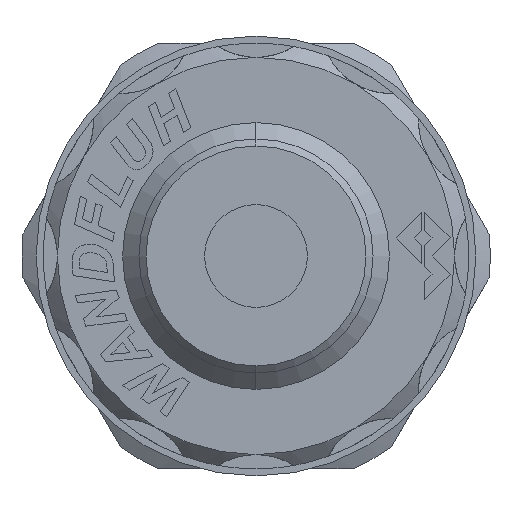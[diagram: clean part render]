
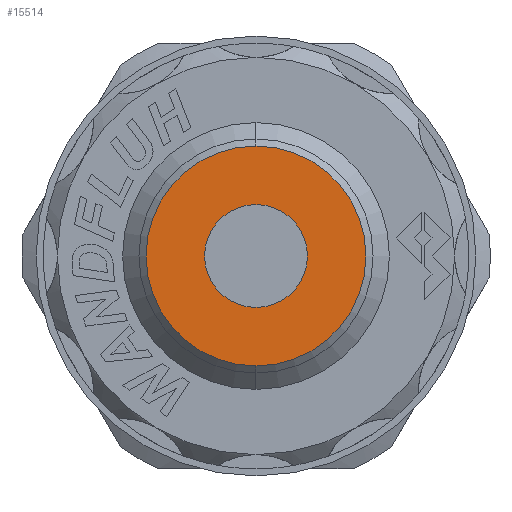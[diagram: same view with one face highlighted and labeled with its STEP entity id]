
A CAD part, left-side view. The second image highlights one B-rep face of the part: STEP entity #15514.
In plain terms, the highlighted planar face has unit normal (-1, 0, 0).
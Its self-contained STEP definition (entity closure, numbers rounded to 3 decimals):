
#1416 = AXIS2_PLACEMENT_3D ( 'NONE', #13700, #12616, #11990 ) ;
#1494 = CIRCLE ( 'NONE', #15503, 7.75 ) ;
#2851 = CIRCLE ( 'NONE', #19156, 3.625 ) ;
#3925 = CIRCLE ( 'NONE', #16902, 3.625 ) ;
#4174 = CARTESIAN_POINT ( 'NONE',  ( -70.9, 0., 7.75 ) ) ;
#5519 = EDGE_CURVE ( 'NONE', #9360, #19572, #3925, .T. ) ;
#6045 = EDGE_CURVE ( 'NONE', #21116, #14268, #1494, .T. ) ;
#6559 = FACE_OUTER_BOUND ( 'NONE', #12508, .T. ) ;
#7388 = AXIS2_PLACEMENT_3D ( 'NONE', #16304, #16222, #16258 ) ;
#9360 = VERTEX_POINT ( 'NONE', #17235 ) ;
#10915 = EDGE_CURVE ( 'NONE', #14268, #21116, #14246, .T. ) ;
#11024 = ORIENTED_EDGE ( 'NONE', *, *, #12440, .F. ) ;
#11706 = DIRECTION ( 'NONE',  ( -1., 0., 0. ) ) ;
#11990 = DIRECTION ( 'NONE',  ( 0., 0., 1. ) ) ;
#12440 = EDGE_CURVE ( 'NONE', #19572, #9360, #2851, .T. ) ;
#12508 = EDGE_LOOP ( 'NONE', ( #17384, #13382 ) ) ;
#12616 = DIRECTION ( 'NONE',  ( -1., 0., 0. ) ) ;
#13105 = DIRECTION ( 'NONE',  ( 0., 0., 1. ) ) ;
#13382 = ORIENTED_EDGE ( 'NONE', *, *, #6045, .T. ) ;
#13539 = DIRECTION ( 'NONE',  ( 0., 0., 1. ) ) ;
#13700 = CARTESIAN_POINT ( 'NONE',  ( -70.9, 0., 0. ) ) ;
#14246 = CIRCLE ( 'NONE', #1416, 7.75 ) ;
#14268 = VERTEX_POINT ( 'NONE', #16378 ) ;
#14711 = DIRECTION ( 'NONE',  ( -1., 0., 0. ) ) ;
#15274 = PLANE ( 'NONE',  #7388 ) ;
#15503 = AXIS2_PLACEMENT_3D ( 'NONE', #16619, #14711, #19932 ) ;
#15514 = ADVANCED_FACE ( 'NONE', ( #6559, #20796 ), #15274, .T. ) ;
#16222 = DIRECTION ( 'NONE',  ( -1., 0., 0. ) ) ;
#16258 = DIRECTION ( 'NONE',  ( 0., 0., 1. ) ) ;
#16274 = CARTESIAN_POINT ( 'NONE',  ( -70.9, 0., 0. ) ) ;
#16304 = CARTESIAN_POINT ( 'NONE',  ( -70.9, 3.625, 0. ) ) ;
#16378 = CARTESIAN_POINT ( 'NONE',  ( -70.9, 0., -7.75 ) ) ;
#16619 = CARTESIAN_POINT ( 'NONE',  ( -70.9, 0., 0. ) ) ;
#16813 = CARTESIAN_POINT ( 'NONE',  ( -70.9, 0., 0. ) ) ;
#16902 = AXIS2_PLACEMENT_3D ( 'NONE', #16274, #11706, #13539 ) ;
#17235 = CARTESIAN_POINT ( 'NONE',  ( -70.9, 0., -3.625 ) ) ;
#17384 = ORIENTED_EDGE ( 'NONE', *, *, #10915, .T. ) ;
#17529 = EDGE_LOOP ( 'NONE', ( #11024, #20813 ) ) ;
#17733 = CARTESIAN_POINT ( 'NONE',  ( -70.9, 0., 3.625 ) ) ;
#17976 = DIRECTION ( 'NONE',  ( -1., 0., 0. ) ) ;
#19156 = AXIS2_PLACEMENT_3D ( 'NONE', #16813, #17976, #13105 ) ;
#19572 = VERTEX_POINT ( 'NONE', #17733 ) ;
#19932 = DIRECTION ( 'NONE',  ( 0., 0., 1. ) ) ;
#20796 = FACE_BOUND ( 'NONE', #17529, .T. ) ;
#20813 = ORIENTED_EDGE ( 'NONE', *, *, #5519, .F. ) ;
#21116 = VERTEX_POINT ( 'NONE', #4174 ) ;
